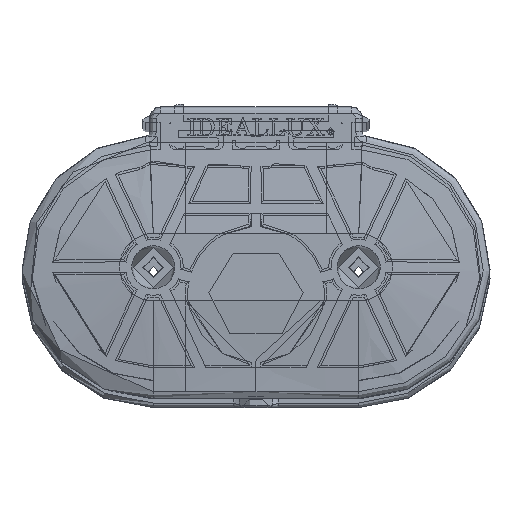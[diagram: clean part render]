
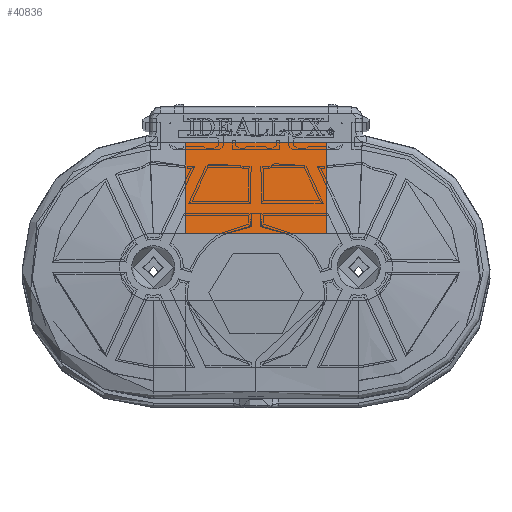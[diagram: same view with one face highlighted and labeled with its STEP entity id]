
A CAD part, top view. The second image highlights one B-rep face of the part: STEP entity #40836.
In plain terms, the highlighted free-form (B-spline) face has degree [3, 1] with [19, 2] control points.
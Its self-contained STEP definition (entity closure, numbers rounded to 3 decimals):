
#4275=LINE('',#101511,#7385);
#4276=LINE('',#101513,#7386);
#4277=LINE('',#101514,#7387);
#4374=LINE('',#110389,#7484);
#7385=VECTOR('',#50515,10.498);
#7386=VECTOR('',#50516,10.004);
#7387=VECTOR('',#50517,10.498);
#7484=VECTOR('',#51162,31.);
#10163=FACE_OUTER_BOUND('',#12538,.T.);
#12538=EDGE_LOOP('',(#34905,#34906,#34907,#34908,#34909,#34910));
#15330=B_SPLINE_CURVE_WITH_KNOTS('',3,(#99396,#99397,#99398,#99399,#99400,
#99401,#99402,#99403,#99404,#99405,#99406,#99407,#99408,#99409),
 .UNSPECIFIED.,.F.,.F.,(4,2,2,2,2,2,4),(0.,0.125,0.25,0.438,0.625,0.813,
1.),.UNSPECIFIED.);
#15334=B_SPLINE_CURVE_WITH_KNOTS('',3,(#99575,#99576,#99577,#99578,#99579,
#99580,#99581,#99582,#99583,#99584,#99585,#99586,#99587,#99588),
 .UNSPECIFIED.,.F.,.F.,(4,2,2,2,2,2,4),(0.,0.125,0.25,0.438,0.625,0.813,
1.),.UNSPECIFIED.);
#18460=VERTEX_POINT('',#99388);
#18461=VERTEX_POINT('',#99389);
#18468=VERTEX_POINT('',#99573);
#18469=VERTEX_POINT('',#99574);
#18597=VERTEX_POINT('',#101510);
#18598=VERTEX_POINT('',#101512);
#23735=EDGE_CURVE('',#18460,#18461,#15330,.T.);
#23742=EDGE_CURVE('',#18468,#18469,#15334,.T.);
#23881=EDGE_CURVE('',#18461,#18597,#4275,.T.);
#23882=EDGE_CURVE('',#18597,#18598,#4276,.T.);
#23883=EDGE_CURVE('',#18598,#18469,#4277,.T.);
#24294=EDGE_CURVE('',#18460,#18468,#4374,.T.);
#34905=ORIENTED_EDGE('',*,*,#24294,.T.);
#34906=ORIENTED_EDGE('',*,*,#23742,.T.);
#34907=ORIENTED_EDGE('',*,*,#23883,.F.);
#34908=ORIENTED_EDGE('',*,*,#23882,.F.);
#34909=ORIENTED_EDGE('',*,*,#23881,.F.);
#34910=ORIENTED_EDGE('',*,*,#23735,.F.);
#38567=B_SPLINE_SURFACE_WITH_KNOTS('',3,1,((#111829,#111830),(#111831,#111832),
(#111833,#111834),(#111835,#111836),(#111837,#111838),(#111839,#111840),
(#111841,#111842),(#111843,#111844),(#111845,#111846),(#111847,#111848),
(#111849,#111850),(#111851,#111852),(#111853,#111854),(#111855,#111856),
(#111857,#111858),(#111859,#111860),(#111861,#111862),(#111863,#111864),
(#111865,#111866)),.UNSPECIFIED.,.F.,.F.,.F.,(4,3,3,3,3,3,4),(2,2),(0.,
0.125,0.25,0.438,0.625,0.813,1.),(0.,3.72),.UNSPECIFIED.);
#40836=ADVANCED_FACE('',(#10163),#38567,.F.);
#50515=DIRECTION('',(-1.,0.,0.));
#50516=DIRECTION('',(-1.,0.,0.));
#50517=DIRECTION('',(-1.,0.,0.));
#51162=DIRECTION('',(-1.,0.,0.));
#99388=CARTESIAN_POINT('',(38.5,27.99,392.5));
#99389=CARTESIAN_POINT('',(38.5,7.95,394.5));
#99396=CARTESIAN_POINT('Ctrl Pts',(38.5,27.99,392.5));
#99397=CARTESIAN_POINT('Ctrl Pts',(38.5,27.15,392.5));
#99398=CARTESIAN_POINT('Ctrl Pts',(38.5,26.312,392.526));
#99399=CARTESIAN_POINT('Ctrl Pts',(38.5,24.638,392.628));
#99400=CARTESIAN_POINT('Ctrl Pts',(38.5,23.803,392.702));
#99401=CARTESIAN_POINT('Ctrl Pts',(38.5,21.716,392.934));
#99402=CARTESIAN_POINT('Ctrl Pts',(38.5,20.467,393.114));
#99403=CARTESIAN_POINT('Ctrl Pts',(38.5,17.968,393.498));
#99404=CARTESIAN_POINT('Ctrl Pts',(38.5,16.719,393.7));
#99405=CARTESIAN_POINT('Ctrl Pts',(38.5,14.22,394.062));
#99406=CARTESIAN_POINT('Ctrl Pts',(38.5,12.97,394.22));
#99407=CARTESIAN_POINT('Ctrl Pts',(38.5,10.464,394.44));
#99408=CARTESIAN_POINT('Ctrl Pts',(38.5,9.209,394.5));
#99409=CARTESIAN_POINT('Ctrl Pts',(38.5,7.95,394.5));
#99573=CARTESIAN_POINT('',(7.5,27.99,392.5));
#99574=CARTESIAN_POINT('',(7.5,7.95,394.5));
#99575=CARTESIAN_POINT('Ctrl Pts',(7.5,27.99,392.5));
#99576=CARTESIAN_POINT('Ctrl Pts',(7.5,27.15,392.5));
#99577=CARTESIAN_POINT('Ctrl Pts',(7.5,26.312,392.526));
#99578=CARTESIAN_POINT('Ctrl Pts',(7.5,24.638,392.628));
#99579=CARTESIAN_POINT('Ctrl Pts',(7.5,23.803,392.702));
#99580=CARTESIAN_POINT('Ctrl Pts',(7.5,21.716,392.934));
#99581=CARTESIAN_POINT('Ctrl Pts',(7.5,20.467,393.114));
#99582=CARTESIAN_POINT('Ctrl Pts',(7.5,17.968,393.498));
#99583=CARTESIAN_POINT('Ctrl Pts',(7.5,16.719,393.7));
#99584=CARTESIAN_POINT('Ctrl Pts',(7.5,14.22,394.062));
#99585=CARTESIAN_POINT('Ctrl Pts',(7.5,12.97,394.22));
#99586=CARTESIAN_POINT('Ctrl Pts',(7.5,10.464,394.44));
#99587=CARTESIAN_POINT('Ctrl Pts',(7.5,9.209,394.5));
#99588=CARTESIAN_POINT('Ctrl Pts',(7.5,7.95,394.5));
#101510=CARTESIAN_POINT('',(28.002,7.95,394.5));
#101511=CARTESIAN_POINT('',(45.7,7.95,394.5));
#101512=CARTESIAN_POINT('',(17.998,7.95,394.5));
#101513=CARTESIAN_POINT('',(23.,7.95,394.5));
#101514=CARTESIAN_POINT('',(17.998,7.95,394.5));
#110389=CARTESIAN_POINT('',(46.459,27.99,392.5));
#111829=CARTESIAN_POINT('Ctrl Pts',(38.5,27.99,392.5));
#111830=CARTESIAN_POINT('Ctrl Pts',(1.3,27.99,392.5));
#111831=CARTESIAN_POINT('Ctrl Pts',(38.5,27.15,392.5));
#111832=CARTESIAN_POINT('Ctrl Pts',(1.3,27.15,392.5));
#111833=CARTESIAN_POINT('Ctrl Pts',(38.5,26.312,392.526));
#111834=CARTESIAN_POINT('Ctrl Pts',(1.3,26.312,392.526));
#111835=CARTESIAN_POINT('Ctrl Pts',(38.5,25.475,392.577));
#111836=CARTESIAN_POINT('Ctrl Pts',(1.3,25.475,392.577));
#111837=CARTESIAN_POINT('Ctrl Pts',(38.5,24.638,392.628));
#111838=CARTESIAN_POINT('Ctrl Pts',(1.3,24.638,392.628));
#111839=CARTESIAN_POINT('Ctrl Pts',(38.5,23.803,392.702));
#111840=CARTESIAN_POINT('Ctrl Pts',(1.3,23.803,392.702));
#111841=CARTESIAN_POINT('Ctrl Pts',(38.5,22.968,392.795));
#111842=CARTESIAN_POINT('Ctrl Pts',(1.3,22.968,392.795));
#111843=CARTESIAN_POINT('Ctrl Pts',(38.5,21.716,392.934));
#111844=CARTESIAN_POINT('Ctrl Pts',(1.3,21.716,392.934));
#111845=CARTESIAN_POINT('Ctrl Pts',(38.5,20.467,393.114));
#111846=CARTESIAN_POINT('Ctrl Pts',(1.3,20.467,393.114));
#111847=CARTESIAN_POINT('Ctrl Pts',(38.5,19.217,393.306));
#111848=CARTESIAN_POINT('Ctrl Pts',(1.3,19.217,393.306));
#111849=CARTESIAN_POINT('Ctrl Pts',(38.5,17.968,393.498));
#111850=CARTESIAN_POINT('Ctrl Pts',(1.3,17.968,393.498));
#111851=CARTESIAN_POINT('Ctrl Pts',(38.5,16.719,393.7));
#111852=CARTESIAN_POINT('Ctrl Pts',(1.3,16.719,393.7));
#111853=CARTESIAN_POINT('Ctrl Pts',(38.5,15.47,393.881));
#111854=CARTESIAN_POINT('Ctrl Pts',(1.3,15.47,393.881));
#111855=CARTESIAN_POINT('Ctrl Pts',(38.5,14.22,394.062));
#111856=CARTESIAN_POINT('Ctrl Pts',(1.3,14.22,394.062));
#111857=CARTESIAN_POINT('Ctrl Pts',(38.5,12.97,394.22));
#111858=CARTESIAN_POINT('Ctrl Pts',(1.3,12.97,394.22));
#111859=CARTESIAN_POINT('Ctrl Pts',(38.5,11.717,394.33));
#111860=CARTESIAN_POINT('Ctrl Pts',(1.3,11.717,394.33));
#111861=CARTESIAN_POINT('Ctrl Pts',(38.5,10.464,394.44));
#111862=CARTESIAN_POINT('Ctrl Pts',(1.3,10.464,394.44));
#111863=CARTESIAN_POINT('Ctrl Pts',(38.5,9.209,394.5));
#111864=CARTESIAN_POINT('Ctrl Pts',(1.3,9.209,394.5));
#111865=CARTESIAN_POINT('Ctrl Pts',(38.5,7.95,394.5));
#111866=CARTESIAN_POINT('Ctrl Pts',(1.3,7.95,394.5));
